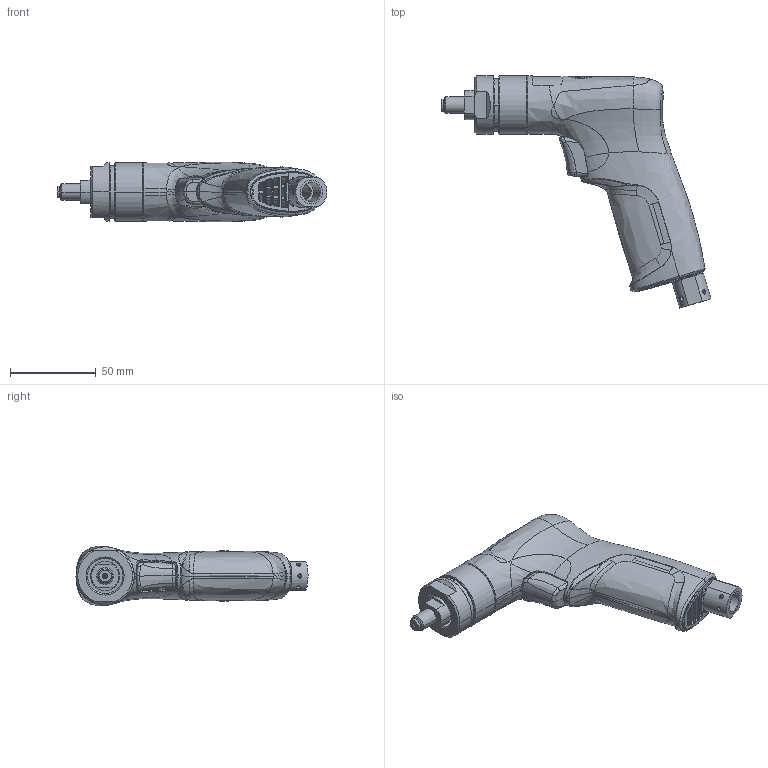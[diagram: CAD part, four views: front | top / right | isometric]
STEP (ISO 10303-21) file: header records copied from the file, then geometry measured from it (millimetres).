
FILE_DESCRIPTION((''),'2;1');
FILE_NAME('_2051473584_ASM','2008-10-22T',('sdanet'),(''),'PRO/ENGINEER BY PARAMETRIC TECHNOLOGY CORPORATION, 2008250','PRO/ENGINEER BY PARAMETRIC TECHNOLOGY CORPORATION, 2008250','');
FILE_SCHEMA(('CONFIG_CONTROL_DESIGN'));
Length unit declared in the file: millimetre
Products named in the file (1): _2051473584_ASM
Bounding box: 157.4 x 135.39 x 34.97 mm (x, y, z)
Volume: 23911.4 mm3; surface area: 89186.4 mm2
Topology: 5 solids, 16 shells, 2309 faces, 5849 edges, 3550 vertices
Faces by surface type: plane 772, bspline 596, cylinder 594, cone 183, torus 128, sphere 24, extrusion 12
Entity records: 120925 total; most frequent: CARTESIAN_POINT 72024, ORIENTED_EDGE 11572, DIRECTION 7819, EDGE_CURVE 5827, VERTEX_POINT 3550, AXIS2_PLACEMENT_3D 2655, VECTOR 2509, LINE 2497
